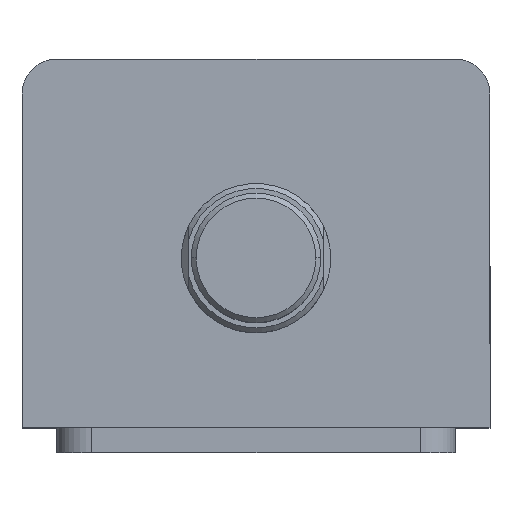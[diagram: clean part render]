
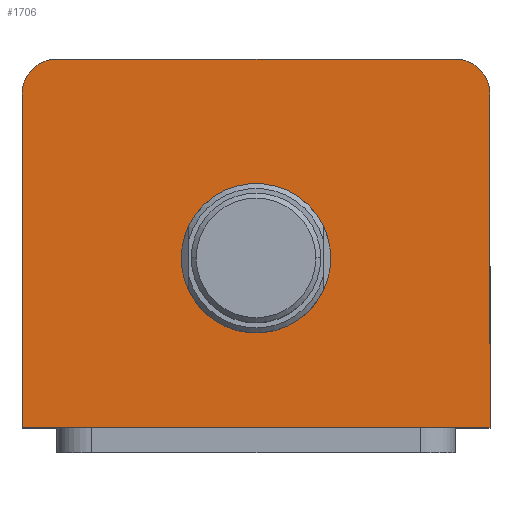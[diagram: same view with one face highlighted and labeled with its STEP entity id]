
A CAD part, top view. The second image highlights one B-rep face of the part: STEP entity #1706.
In plain terms, the highlighted planar face has unit normal (0, 0, 1).
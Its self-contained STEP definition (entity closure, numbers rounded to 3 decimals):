
#86 = CIRCLE ( 'NONE', #452, 7. ) ;
#98 = LINE ( 'NONE', #2151, #101 ) ;
#101 = VECTOR ( 'NONE', #2150, 1000. ) ;
#124 = CIRCLE ( 'NONE', #446, 15. ) ;
#370 = AXIS2_PLACEMENT_3D ( 'NONE', #2017, #2014, #2009 ) ;
#390 = AXIS2_PLACEMENT_3D ( 'NONE', #1286, #1285, #1284 ) ;
#446 = AXIS2_PLACEMENT_3D ( 'NONE', #2117, #2116, #2115 ) ;
#452 = AXIS2_PLACEMENT_3D ( 'NONE', #2186, #2185, #2184 ) ;
#523 = EDGE_LOOP ( 'NONE', ( #763, #762 ) ) ;
#527 = EDGE_LOOP ( 'NONE', ( #761, #760, #767, #766, #765, #764 ) ) ;
#716 = FACE_BOUND ( 'NONE', #523, .T. ) ;
#719 = FACE_OUTER_BOUND ( 'NONE', #527, .T. ) ;
#760 = ORIENTED_EDGE ( 'NONE', *, *, #2476, .T. ) ;
#761 = ORIENTED_EDGE ( 'NONE', *, *, #1948, .T. ) ;
#762 = ORIENTED_EDGE ( 'NONE', *, *, #1891, .F. ) ;
#763 = ORIENTED_EDGE ( 'NONE', *, *, #2498, .F. ) ;
#764 = ORIENTED_EDGE ( 'NONE', *, *, #1955, .T. ) ;
#765 = ORIENTED_EDGE ( 'NONE', *, *, #1931, .T. ) ;
#766 = ORIENTED_EDGE ( 'NONE', *, *, #1912, .T. ) ;
#767 = ORIENTED_EDGE ( 'NONE', *, *, #2485, .T. ) ;
#990 = CARTESIAN_POINT ( 'NONE',  ( -47., 30., 90. ) ) ;
#993 = CARTESIAN_POINT ( 'NONE',  ( -15., -3., 90. ) ) ;
#998 = CARTESIAN_POINT ( 'NONE',  ( 40., 37., 90. ) ) ;
#1031 = CARTESIAN_POINT ( 'NONE',  ( 15., -3., 90. ) ) ;
#1054 = CARTESIAN_POINT ( 'NONE',  ( 47., 30., 90. ) ) ;
#1092 = CARTESIAN_POINT ( 'NONE',  ( -47., -37., 90. ) ) ;
#1099 = CARTESIAN_POINT ( 'NONE',  ( -40., 37., 90. ) ) ;
#1149 = CARTESIAN_POINT ( 'NONE',  ( 47., -37., 90. ) ) ;
#1221 = CARTESIAN_POINT ( 'NONE',  ( -47., -37., 90. ) ) ;
#1224 = DIRECTION ( 'NONE',  ( 1., 0., 0. ) ) ;
#1284 = DIRECTION ( 'NONE',  ( 1., 0., 0. ) ) ;
#1285 = DIRECTION ( 'NONE',  ( 0., 0., 1. ) ) ;
#1286 = CARTESIAN_POINT ( 'NONE',  ( 0., -3., 90. ) ) ;
#1706 = ADVANCED_FACE ( 'NONE', ( #716, #719 ), #2416, .T. ) ;
#1891 = EDGE_CURVE ( 'NONE', #2813, #2778, #3004, .T. ) ;
#1912 = EDGE_CURVE ( 'NONE', #2682, #2750, #3038, .T. ) ;
#1931 = EDGE_CURVE ( 'NONE', #2750, #2739, #3074, .T. ) ;
#1948 = EDGE_CURVE ( 'NONE', #2808, #2697, #3103, .T. ) ;
#1955 = EDGE_CURVE ( 'NONE', #2739, #2808, #3112, .T. ) ;
#2009 = DIRECTION ( 'NONE',  ( 1., 0., 0. ) ) ;
#2014 = DIRECTION ( 'NONE',  ( 0., 0., 1. ) ) ;
#2017 = CARTESIAN_POINT ( 'NONE',  ( 40., 30., 90. ) ) ;
#2087 = DIRECTION ( 'NONE',  ( -1., 0., 0. ) ) ;
#2089 = CARTESIAN_POINT ( 'NONE',  ( -47., 37., 90. ) ) ;
#2115 = DIRECTION ( 'NONE',  ( 1., 0., 0. ) ) ;
#2116 = DIRECTION ( 'NONE',  ( 0., 0., 1. ) ) ;
#2117 = CARTESIAN_POINT ( 'NONE',  ( 0., -3., 90. ) ) ;
#2150 = DIRECTION ( 'NONE',  ( 0., -1., 0. ) ) ;
#2151 = CARTESIAN_POINT ( 'NONE',  ( -47., 37., 90. ) ) ;
#2184 = DIRECTION ( 'NONE',  ( 1., 0., 0. ) ) ;
#2185 = DIRECTION ( 'NONE',  ( 0., 0., 1. ) ) ;
#2186 = CARTESIAN_POINT ( 'NONE',  ( -40., 30., 90. ) ) ;
#2231 = DIRECTION ( 'NONE',  ( 0., 1., 0. ) ) ;
#2233 = CARTESIAN_POINT ( 'NONE',  ( 47., 37., 90. ) ) ;
#2413 = DIRECTION ( 'NONE',  ( 1., 0., 0. ) ) ;
#2414 = DIRECTION ( 'NONE',  ( 0., 0., 1. ) ) ;
#2416 = PLANE ( 'NONE',  #2457 ) ;
#2423 = CARTESIAN_POINT ( 'NONE',  ( 0., 0., 90. ) ) ;
#2457 = AXIS2_PLACEMENT_3D ( 'NONE', #2423, #2414, #2413 ) ;
#2476 = EDGE_CURVE ( 'NONE', #2697, #2816, #86, .T. ) ;
#2485 = EDGE_CURVE ( 'NONE', #2816, #2682, #98, .T. ) ;
#2498 = EDGE_CURVE ( 'NONE', #2778, #2813, #124, .T. ) ;
#2682 = VERTEX_POINT ( 'NONE', #1092 ) ;
#2697 = VERTEX_POINT ( 'NONE', #1099 ) ;
#2739 = VERTEX_POINT ( 'NONE', #1054 ) ;
#2750 = VERTEX_POINT ( 'NONE', #1149 ) ;
#2778 = VERTEX_POINT ( 'NONE', #1031 ) ;
#2808 = VERTEX_POINT ( 'NONE', #998 ) ;
#2813 = VERTEX_POINT ( 'NONE', #993 ) ;
#2816 = VERTEX_POINT ( 'NONE', #990 ) ;
#3004 = CIRCLE ( 'NONE', #390, 15. ) ;
#3038 = LINE ( 'NONE', #1221, #3042 ) ;
#3042 = VECTOR ( 'NONE', #1224, 1000. ) ;
#3074 = LINE ( 'NONE', #2233, #3077 ) ;
#3077 = VECTOR ( 'NONE', #2231, 1000. ) ;
#3103 = LINE ( 'NONE', #2089, #3106 ) ;
#3106 = VECTOR ( 'NONE', #2087, 1000. ) ;
#3112 = CIRCLE ( 'NONE', #370, 7. ) ;
